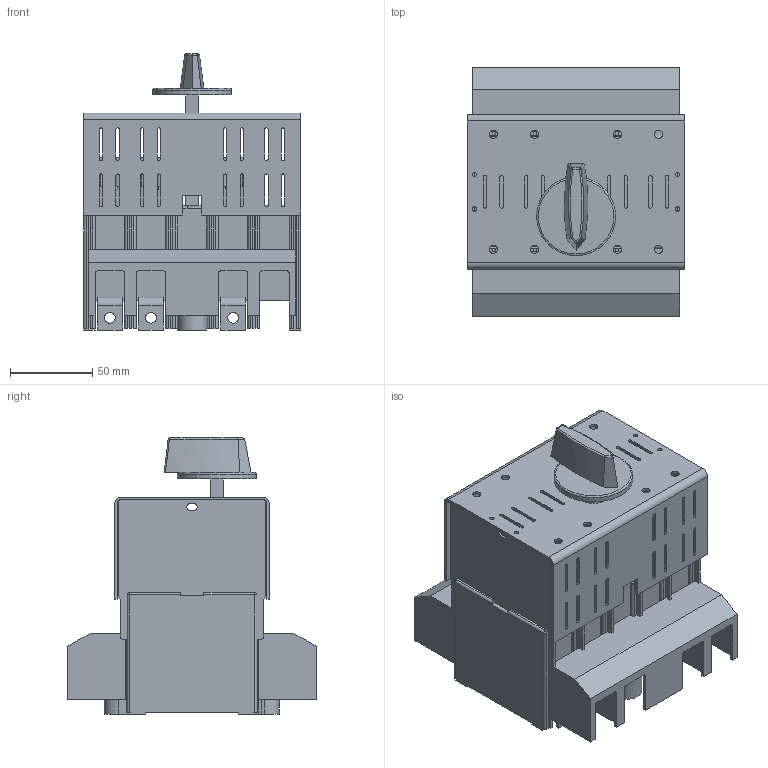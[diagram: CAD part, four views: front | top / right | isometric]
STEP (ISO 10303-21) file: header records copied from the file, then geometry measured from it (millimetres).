
FILE_DESCRIPTION(/* description */ (''),/* implementation_level */ '2;1');
FILE_NAME(/* name */ 'RAB 000 P3 B-R z oslona zaciskow.stp',/* time_stamp */ '2021-08-19T09:51:00+02:00',/* author */ (''),/* organization */ (''),/* preprocessor_version */ 'ST-DEVELOPER v18.1',/* originating_system */ 'SIEMENS PLM Software NX 1965',/* authorisation */ '');
FILE_SCHEMA (('AUTOMOTIVE_DESIGN { 1 0 10303 214 3 1 1 1 }'));
Length unit declared in the file: millimetre
Products named in the file (1): RAB 000 P3 B-R z oslona zaciskow
Bounding box: 132.5 x 151.03 x 168 mm (x, y, z)
Volume: 791534.3 mm3; surface area: 263613 mm2
Topology: 1 solids, 1 shells, 1171 faces, 3389 edges, 2197 vertices
Faces by surface type: plane 760, cylinder 330, extrusion 48, sphere 25, bspline 7, torus 1
Full cylindrical faces by diameter (mm): 2.7 x4, 5 x8, 5.8 x2, 6.5 x6, 10 x2, 11.5 x2, 20 x1, 48 x1
Entity records: 38909 total; most frequent: CARTESIAN_POINT 7938, ORIENTED_EDGE 6640, DIRECTION 6118, EDGE_CURVE 3320, VECTOR 2560, LINE 2512, VERTEX_POINT 2166, AXIS2_PLACEMENT_3D 1779
